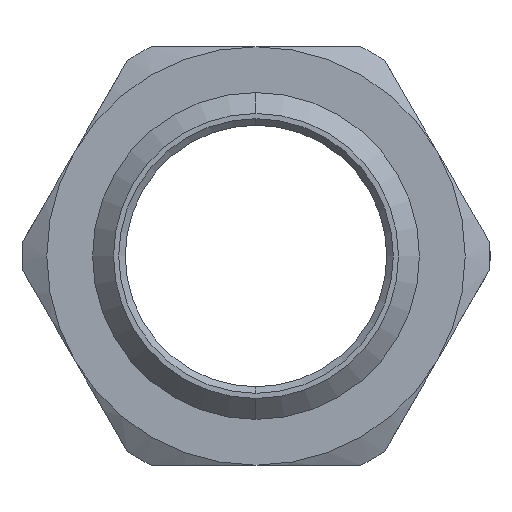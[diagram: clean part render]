
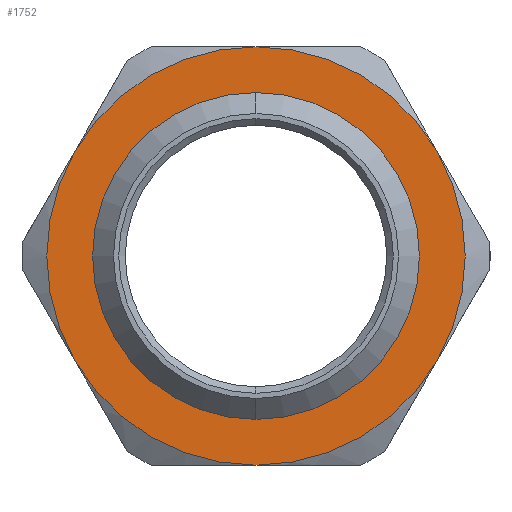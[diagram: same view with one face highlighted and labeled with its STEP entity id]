
A CAD part, left-side view. The second image highlights one B-rep face of the part: STEP entity #1752.
In plain terms, the highlighted planar face has unit normal (-1, 0, 0).
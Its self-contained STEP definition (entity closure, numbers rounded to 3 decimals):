
#34 = VERTEX_POINT ( 'NONE', #1687 ) ;
#43 = VERTEX_POINT ( 'NONE', #1714 ) ;
#45 = VERTEX_POINT ( 'NONE', #1691 ) ;
#50 = VERTEX_POINT ( 'NONE', #1701 ) ;
#53 = VERTEX_POINT ( 'NONE', #1711 ) ;
#58 = VERTEX_POINT ( 'NONE', #1668 ) ;
#62 = VERTEX_POINT ( 'NONE', #1682 ) ;
#63 = VERTEX_POINT ( 'NONE', #1666 ) ;
#230 = DIRECTION ( 'NONE',  ( 0., 0., -1. ) ) ;
#231 = DIRECTION ( 'NONE',  ( 1., 0., 0. ) ) ;
#233 = PLANE ( 'NONE',  #1432 ) ;
#236 = CARTESIAN_POINT ( 'NONE',  ( -24., 23.475, 0. ) ) ;
#237 = DIRECTION ( 'NONE',  ( 1., 0., 0. ) ) ;
#240 = DIRECTION ( 'NONE',  ( 1., 0., 0. ) ) ;
#243 = CARTESIAN_POINT ( 'NONE',  ( -24., 0., 0. ) ) ;
#295 = DIRECTION ( 'NONE',  ( 0., 0., -1. ) ) ;
#298 = DIRECTION ( 'NONE',  ( 1., 0., 0. ) ) ;
#331 = DIRECTION ( 'NONE',  ( 0., 0., -1. ) ) ;
#332 = DIRECTION ( 'NONE',  ( 1., 0., 0. ) ) ;
#333 = DIRECTION ( 'NONE',  ( 0., 0., -1. ) ) ;
#334 = CARTESIAN_POINT ( 'NONE',  ( -24., 0., 0. ) ) ;
#338 = DIRECTION ( 'NONE',  ( 0., 0., -1. ) ) ;
#339 = DIRECTION ( 'NONE',  ( 1., 0., 0. ) ) ;
#341 = CARTESIAN_POINT ( 'NONE',  ( -24., 0., 0. ) ) ;
#362 = CARTESIAN_POINT ( 'NONE',  ( -24., 0., 0. ) ) ;
#374 = DIRECTION ( 'NONE',  ( 0., 0., -1. ) ) ;
#380 = DIRECTION ( 'NONE',  ( 0., 0., -1. ) ) ;
#381 = DIRECTION ( 'NONE',  ( 1., 0., 0. ) ) ;
#382 = CARTESIAN_POINT ( 'NONE',  ( -24., 0., 0. ) ) ;
#518 = CARTESIAN_POINT ( 'NONE',  ( -24., 0., 0. ) ) ;
#694 = DIRECTION ( 'NONE',  ( 1., 0., 0. ) ) ;
#723 = DIRECTION ( 'NONE',  ( 0., 0., -1. ) ) ;
#806 = DIRECTION ( 'NONE',  ( 1., 0., 0. ) ) ;
#807 = CARTESIAN_POINT ( 'NONE',  ( -24., 0., 0. ) ) ;
#810 = CARTESIAN_POINT ( 'NONE',  ( -24., 0., 0. ) ) ;
#811 = DIRECTION ( 'NONE',  ( 0., 0., -1. ) ) ;
#920 = CIRCLE ( 'NONE', #1466, 12.05 ) ;
#934 = CIRCLE ( 'NONE', #1459, 12.05 ) ;
#935 = CIRCLE ( 'NONE', #1458, 16. ) ;
#976 = FACE_BOUND ( 'NONE', #1314, .T. ) ;
#980 = FACE_OUTER_BOUND ( 'NONE', #1281, .T. ) ;
#1127 = ORIENTED_EDGE ( 'NONE', *, *, #1654, .T. ) ;
#1128 = ORIENTED_EDGE ( 'NONE', *, *, #1644, .T. ) ;
#1129 = ORIENTED_EDGE ( 'NONE', *, *, #1655, .F. ) ;
#1131 = ORIENTED_EDGE ( 'NONE', *, *, #1526, .F. ) ;
#1141 = ORIENTED_EDGE ( 'NONE', *, *, #1527, .F. ) ;
#1142 = ORIENTED_EDGE ( 'NONE', *, *, #1528, .F. ) ;
#1184 = ORIENTED_EDGE ( 'NONE', *, *, #1529, .F. ) ;
#1185 = ORIENTED_EDGE ( 'NONE', *, *, #1530, .F. ) ;
#1281 = EDGE_LOOP ( 'NONE', ( #1129, #1131, #1141, #1142, #1184, #1185 ) ) ;
#1314 = EDGE_LOOP ( 'NONE', ( #1127, #1128 ) ) ;
#1353 = CIRCLE ( 'NONE', #1521, 16. ) ;
#1354 = CIRCLE ( 'NONE', #1522, 16. ) ;
#1355 = CIRCLE ( 'NONE', #1525, 16. ) ;
#1358 = CIRCLE ( 'NONE', #1523, 16. ) ;
#1359 = CIRCLE ( 'NONE', #1524, 16. ) ;
#1432 = AXIS2_PLACEMENT_3D ( 'NONE', #236, #231, #230 ) ;
#1458 = AXIS2_PLACEMENT_3D ( 'NONE', #334, #332, #331 ) ;
#1459 = AXIS2_PLACEMENT_3D ( 'NONE', #341, #339, #338 ) ;
#1466 = AXIS2_PLACEMENT_3D ( 'NONE', #382, #381, #380 ) ;
#1521 = AXIS2_PLACEMENT_3D ( 'NONE', #810, #694, #333 ) ;
#1522 = AXIS2_PLACEMENT_3D ( 'NONE', #807, #806, #811 ) ;
#1523 = AXIS2_PLACEMENT_3D ( 'NONE', #243, #240, #374 ) ;
#1524 = AXIS2_PLACEMENT_3D ( 'NONE', #518, #237, #723 ) ;
#1525 = AXIS2_PLACEMENT_3D ( 'NONE', #362, #298, #295 ) ;
#1526 = EDGE_CURVE ( 'NONE', #62, #34, #1355, .T. ) ;
#1527 = EDGE_CURVE ( 'NONE', #50, #62, #1359, .T. ) ;
#1528 = EDGE_CURVE ( 'NONE', #58, #50, #1358, .T. ) ;
#1529 = EDGE_CURVE ( 'NONE', #53, #58, #1354, .T. ) ;
#1530 = EDGE_CURVE ( 'NONE', #63, #53, #1353, .T. ) ;
#1644 = EDGE_CURVE ( 'NONE', #45, #43, #920, .T. ) ;
#1654 = EDGE_CURVE ( 'NONE', #43, #45, #934, .T. ) ;
#1655 = EDGE_CURVE ( 'NONE', #34, #63, #935, .T. ) ;
#1666 = CARTESIAN_POINT ( 'NONE',  ( -24., 13.856, -8. ) ) ;
#1668 = CARTESIAN_POINT ( 'NONE',  ( -24., 0., 16. ) ) ;
#1682 = CARTESIAN_POINT ( 'NONE',  ( -24., -13.856, -8. ) ) ;
#1687 = CARTESIAN_POINT ( 'NONE',  ( -24., 0., -16. ) ) ;
#1691 = CARTESIAN_POINT ( 'NONE',  ( -24., 0., 12.05 ) ) ;
#1701 = CARTESIAN_POINT ( 'NONE',  ( -24., -13.856, 8. ) ) ;
#1711 = CARTESIAN_POINT ( 'NONE',  ( -24., 13.856, 8. ) ) ;
#1714 = CARTESIAN_POINT ( 'NONE',  ( -24., 0., -12.05 ) ) ;
#1752 = ADVANCED_FACE ( 'NONE', ( #976, #980 ), #233, .F. ) ;
